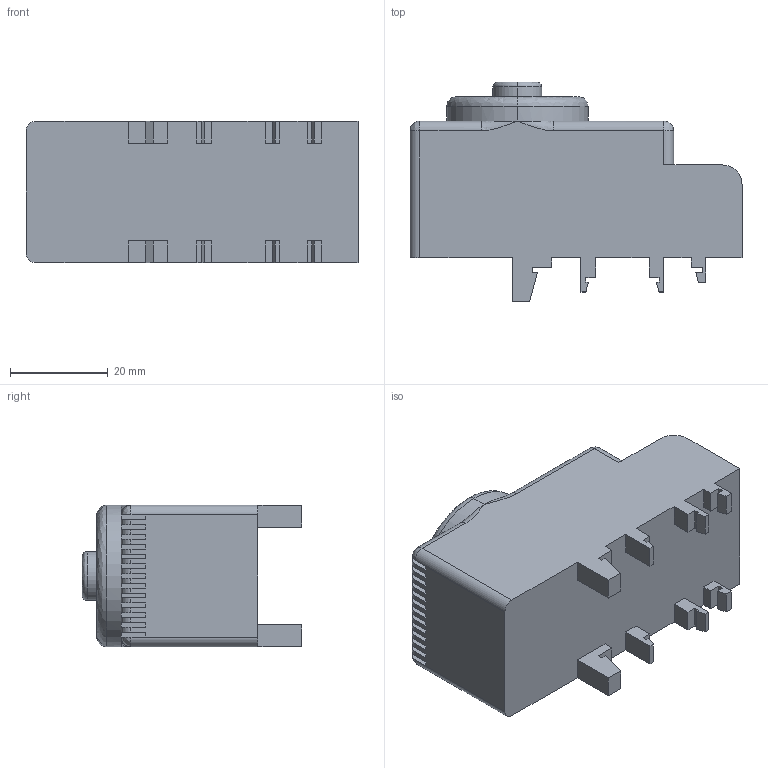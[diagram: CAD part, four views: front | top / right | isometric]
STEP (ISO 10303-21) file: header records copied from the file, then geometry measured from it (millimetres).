
FILE_DESCRIPTION (( 'STEP AP203' ), '1' );
FILE_NAME ('Òåðìîñòàò.STEP', '2014-01-21T10:56:38', ( 'System' ), ( '' ), 'SwSTEP 2.0', 'SolidWorks 2012', '' );
FILE_SCHEMA (( 'CONFIG_CONTROL_DESIGN' ));
Length unit declared in the file: millimetre
Products named in the file (1): Òåðìîñòàò
Bounding box: 68 x 45 x 29 mm (x, y, z)
Volume: 54628.6 mm3; surface area: 12018.8 mm2
Topology: 1 solids, 1 shells, 228 faces, 659 edges, 426 vertices
Faces by surface type: plane 179, cylinder 37, bspline 12
Entity records: 8032 total; most frequent: CARTESIAN_POINT 2032, ORIENTED_EDGE 1302, DIRECTION 1139, EDGE_CURVE 651, LINE 557, VECTOR 557, VERTEX_POINT 426, AXIS2_PLACEMENT_3D 291
